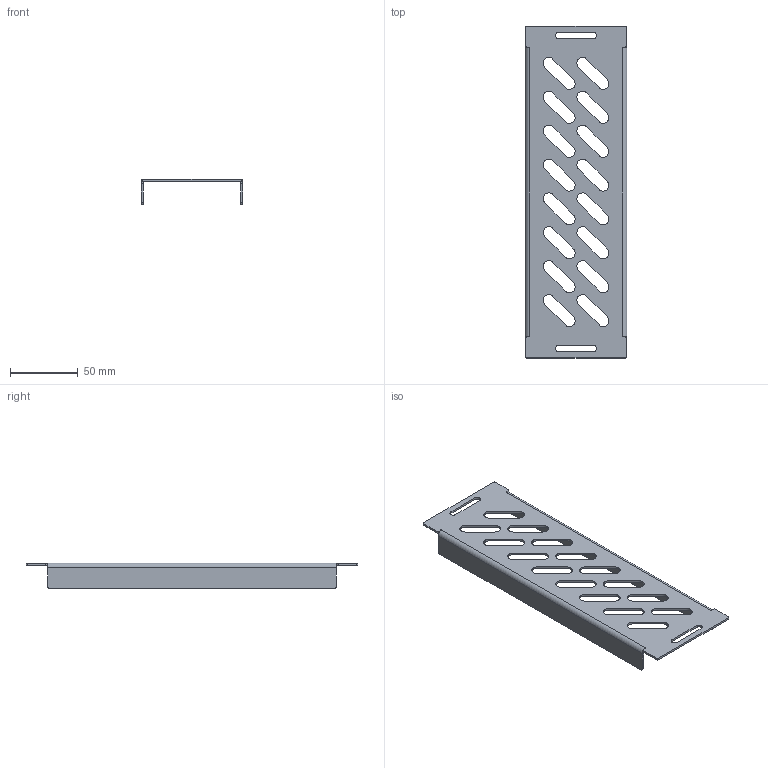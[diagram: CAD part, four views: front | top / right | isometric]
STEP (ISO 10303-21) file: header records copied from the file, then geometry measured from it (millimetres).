
FILE_DESCRIPTION(('STEP AP203'), '1');
FILE_NAME('3007 Ïàíåëü íà äíî ïîäâèæíàÿ', '', ('UNSPECIFIED'), ('UNSPECIFIED'), 'C3D Converter', 'C3D Toolkit', '');
FILE_SCHEMA(('CONFIG_CONTROL_DESIGN'));
Length unit declared in the file: millimetre
Products named in the file (1): 3007.40.75.П
Bounding box: 75 x 245 x 19 mm (x, y, z)
Volume: 31791.1 mm3; surface area: 45346.5 mm2
Topology: 1 solids, 1 shells, 118 faces, 332 edges, 216 vertices
Faces by surface type: plane 62, cylinder 56
Entity records: 3932 total; most frequent: DIRECTION 682, CARTESIAN_POINT 667, ORIENTED_EDGE 664, EDGE_CURVE 332, AXIS2_PLACEMENT_3D 231, LINE 220, VECTOR 220, VERTEX_POINT 216
